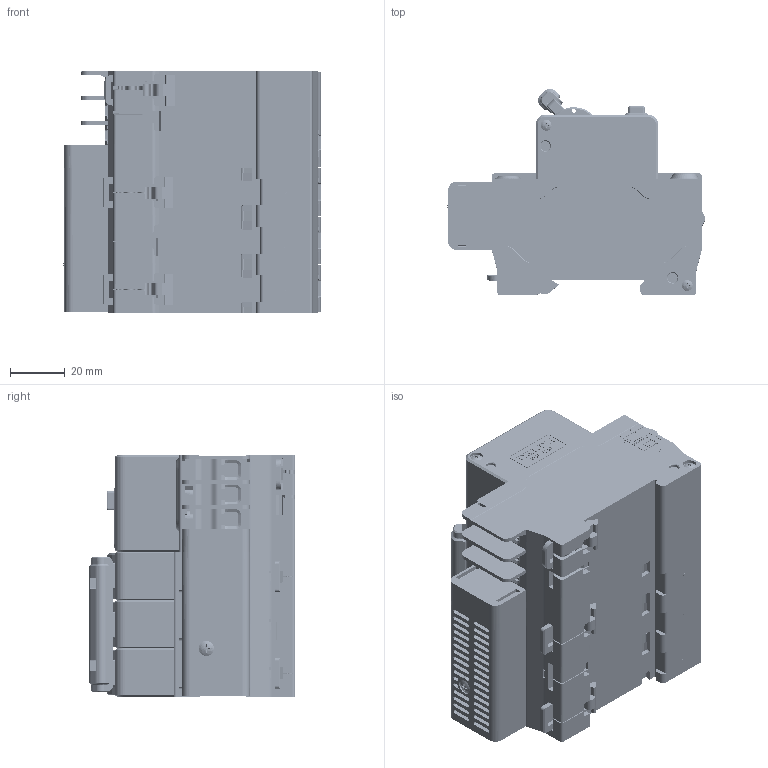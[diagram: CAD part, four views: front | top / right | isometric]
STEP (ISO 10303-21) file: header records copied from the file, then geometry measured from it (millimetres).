
FILE_DESCRIPTION((''),'2;1');
FILE_NAME('CDBHLE_3P_32_22560206_SW0001','2019-12-23T',('dong.huang'),(''),'PRO/ENGINEER BY PARAMETRIC TECHNOLOGY CORPORATION, 2015440','PRO/ENGINEER BY PARAMETRIC TECHNOLOGY CORPORATION, 2015440','');
FILE_SCHEMA(('CONFIG_CONTROL_DESIGN'));
Products named in the file (1): CDBHLE_3P_32_22560206_SW0001
Bounding box: 94.28 x 75.51 x 88.5 mm (x, y, z)
Volume: 290723.2 mm3; surface area: 126474.4 mm2
Topology: 4 solids, 37 shells, 12322 faces, 34571 edges, 22719 vertices
Faces by surface type: plane 8402, cylinder 2304, extrusion 959, cone 408, torus 117, sphere 77, bspline 55
Entity records: 402975 total; most frequent: CARTESIAN_POINT 85703, ORIENTED_EDGE 68978, DIRECTION 60940, EDGE_CURVE 34489, VECTOR 26966, LINE 26007, VERTEX_POINT 22719, AXIS2_PLACEMENT_3D 16987
